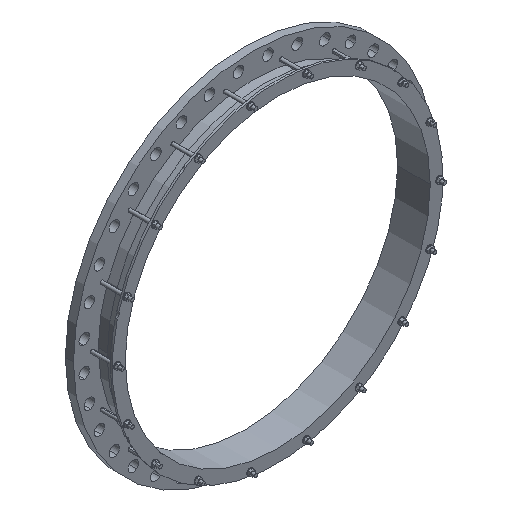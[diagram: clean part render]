
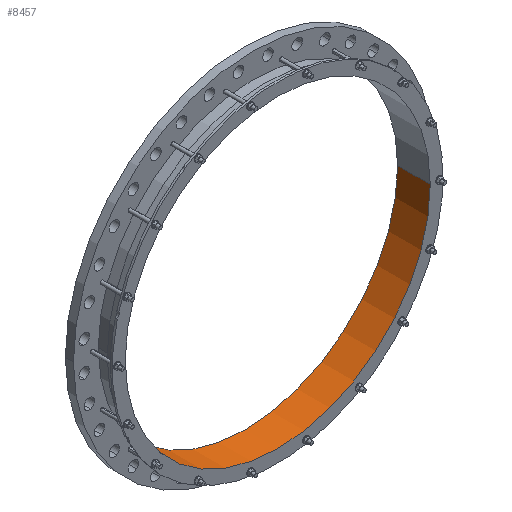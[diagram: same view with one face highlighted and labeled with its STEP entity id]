
A CAD part, isometric view. The second image highlights one B-rep face of the part: STEP entity #8457.
In plain terms, the highlighted cylindrical face has radius 714.75 mm (diameter 1429.5 mm), a partial arc.
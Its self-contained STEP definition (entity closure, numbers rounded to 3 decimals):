
#7=CARTESIAN_POINT('',(0.,38.,0.));
#8=DIRECTION('',(0.,1.,0.));
#9=DIRECTION('',(1.,0.,0.));
#10=AXIS2_PLACEMENT_3D('',#7,#8,#9);
#3176=CARTESIAN_POINT('',(0.,-115.,0.));
#3177=DIRECTION('',(0.,1.,0.));
#3178=DIRECTION('',(1.,0.,0.));
#3179=AXIS2_PLACEMENT_3D('',#3176,#3177,#3178);
#3181=DIRECTION('',(0.,1.,0.));
#3182=VECTOR('',#3181,153.);
#3183=CARTESIAN_POINT('',(714.75,-115.,0.));
#3184=LINE('',#3183,#3182);
#3185=DIRECTION('',(0.,1.,0.));
#3186=VECTOR('',#3185,153.);
#3187=CARTESIAN_POINT('',(-714.75,-115.,0.));
#3188=LINE('',#3187,#3186);
#5865=CARTESIAN_POINT('',(714.75,-115.,0.));
#5866=CARTESIAN_POINT('',(714.75,38.,0.));
#5867=VERTEX_POINT('',#5865);
#5868=VERTEX_POINT('',#5866);
#5873=CARTESIAN_POINT('',(-714.75,-115.,0.));
#5874=CARTESIAN_POINT('',(-714.75,38.,0.));
#5875=VERTEX_POINT('',#5873);
#5876=VERTEX_POINT('',#5874);
#8444=CARTESIAN_POINT('',(0.,-122.65,0.));
#8445=DIRECTION('',(0.,1.,0.));
#8446=DIRECTION('',(-1.,0.,0.));
#8447=AXIS2_PLACEMENT_3D('',#8444,#8445,#8446);
#8448=CYLINDRICAL_SURFACE('',#8447,714.75);
#8450=ORIENTED_EDGE('',*,*,#8449,.F.);
#8451=ORIENTED_EDGE('',*,*,#8437,.T.);
#8453=ORIENTED_EDGE('',*,*,#8452,.T.);
#8454=ORIENTED_EDGE('',*,*,#7164,.F.);
#8455=EDGE_LOOP('',(#8450,#8451,#8453,#8454));
#8456=FACE_OUTER_BOUND('',#8455,.F.);
#8457=ADVANCED_FACE('',(#8456),#8448,.F.);
#11=CIRCLE('',#10,714.75);
#3180=CIRCLE('',#3179,714.75);
#7164=EDGE_CURVE('',#5868,#5876,#11,.T.);
#8437=EDGE_CURVE('',#5867,#5875,#3180,.T.);
#8449=EDGE_CURVE('',#5867,#5868,#3184,.T.);
#8452=EDGE_CURVE('',#5875,#5876,#3188,.T.);
